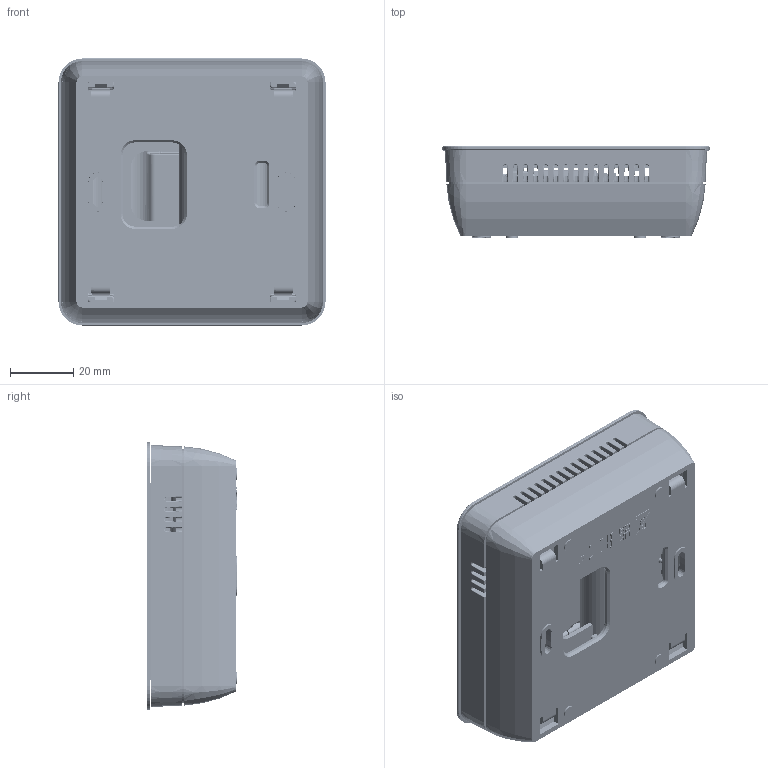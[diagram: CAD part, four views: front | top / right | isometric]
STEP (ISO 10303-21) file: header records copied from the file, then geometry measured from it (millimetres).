
FILE_DESCRIPTION(/* description */ ('','CAx-IF Rec.Pracs.---Representation and Presentation of Product Manufacturing Information (PMI)---4.0---2014-10-13'),/* implementation_level */ '2;1');
FILE_NAME(/* name */ 'R-8s PLUS.step',/* time_stamp */ '2025-02-27T09:54:24+01:00',/* author */ (''),/* organization */ (''),/* preprocessor_version */ 'ST-DEVELOPER v20',/* originating_system */ 'Autodesk Translation Framework v13.20.0.188',/* authorisation */ '');
FILE_SCHEMA (('AP242_MANAGED_MODEL_BASED_3D_ENGINEERING_MIM_LF { 1 0 10303 442 1 1 4 }'));
Length unit declared in the file: millimetre
Products named in the file (65): 1004 natynkowy_AA_2; AA common contact; Bateria_AA; Płytka_AA_2; Zawieszka 1004_AA_2; AAA - contact; AAA + contact; AA - contact; AA + contact; ST-1003_2_1_R_5mm; Board; Packages; DG332K; ANGLE-SW1-16_1; FIDUCIAL_G10; BLASZKA_LEŻĄCA_+_CUTED; BLASZKA_LEŻĄCA_-_CUTED; ULO-TB51-127/5.0-02P-4100A_STANDARD; PCB_INFO_100MM; G6C-2117P; 2X04_THT_2.00_H6.35; piny; wer; DG332J-5.0-03P-00A; DG332K-5.0-03P-00A; Tyl 1004_AA; 297_RS NASCIENNY; SZKŁO; PŁYTKA 83; WYSWIETLACZ DEDEYK BIG; WYSWIETLACZ DEDYKOWANY DUZY; PINY_1; switch kątowy cienki; ST-1003_2_G; PCB Component; Board_1; 2X02; JP10376-01_1; C0805; TQFP100_2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
Assembly tree (159 placements, depth 5):
  1004 natynkowy_AA_2
    Bateria_AA  x2
    AA common contact
    Płytka_AA_2
    Zawieszka 1004_AA_2
    AAA - contact
    AAA + contact
    AA - contact
    AA + contact
    ST-1003_2_1_R_5mm
      Board
      Packages
        DG332K
        ANGLE-SW1-16_1  x4
        FIDUCIAL_G10  x4
        BLASZKA_LEŻĄCA_+_CUTED
        BLASZKA_LEŻĄCA_-_CUTED
        ULO-TB51-127/5.0-02P-4100A_STANDARD
        PCB_INFO_100MM
        G6C-2117P
        2X04_THT_2.00_H6.35
    piny
    wer
      DG332J-5.0-03P-00A
      DG332K-5.0-03P-00A
    Tyl 1004_AA
    297_RS NASCIENNY
      SZKŁO
      PŁYTKA 83
      WYSWIETLACZ DEDEYK BIG
        WYSWIETLACZ DEDYKOWANY DUZY
        PINY_1  x28
      switch kątowy cienki
      ST-1003_2_G
        PCB Component
          Board_1
          2X02
          JP10376-01_1
          C0805  x24
          TQFP100_2
          R0805  x25
          C0805 (1)  x3
          NTC-10_1
          1,6_0,6  x4
          ANGLE-SW1-16_1_1  x2
          FIDUCIAL_G10_1  x2
          NINIGI_1T1206
          SOD80C
          SO8
          SMD_T7  x2
          CAP_TYPE_AK
          SOT23@1
          WAGO2060  x3
          C1206  x2
          SOT23-5
          SOT23  x2
          CSV-D
          SO08
          R1206
          A6S-H-1
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Bounding box: 84.58 x 28.8 x 84.58 mm (x, y, z)
Volume: 100742.6 mm3; surface area: 127285.3 mm2
Topology: 196 solids, 196 shells, 6679 faces, 17204 edges, 11112 vertices
Faces by surface type: plane 4099, cylinder 1310, bspline 774, cone 233, torus 212, sphere 51
Full cylindrical faces by diameter (mm): 0.092 x2, 0.18 x2, 0.24 x1, 0.5 x34, 0.527 x1, 0.8 x10, 1 x3, 1.118 x6, 1.194 x3, 1.2 x3, 1.3 x16, 1.4 x19, 1.5 x15, 1.524 x1, 1.57 x2, 1.6 x5, 1.692 x2, 1.778 x2, 2.2 x33, 2.21 x2, 2.25 x6, 2.261 x2, 2.4 x6, 2.49 x2, 2.5 x3, 2.7 x3, 3.5 x2, 3.637 x1, 3.7 x2, 3.81 x4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
Entity records: 212214 total; most frequent: CARTESIAN_POINT 76778, ORIENTED_EDGE 28366, DIRECTION 26005, EDGE_CURVE 14183, LINE 9441, VECTOR 9441, VERTEX_POINT 9119, AXIS2_PLACEMENT_3D 8282
